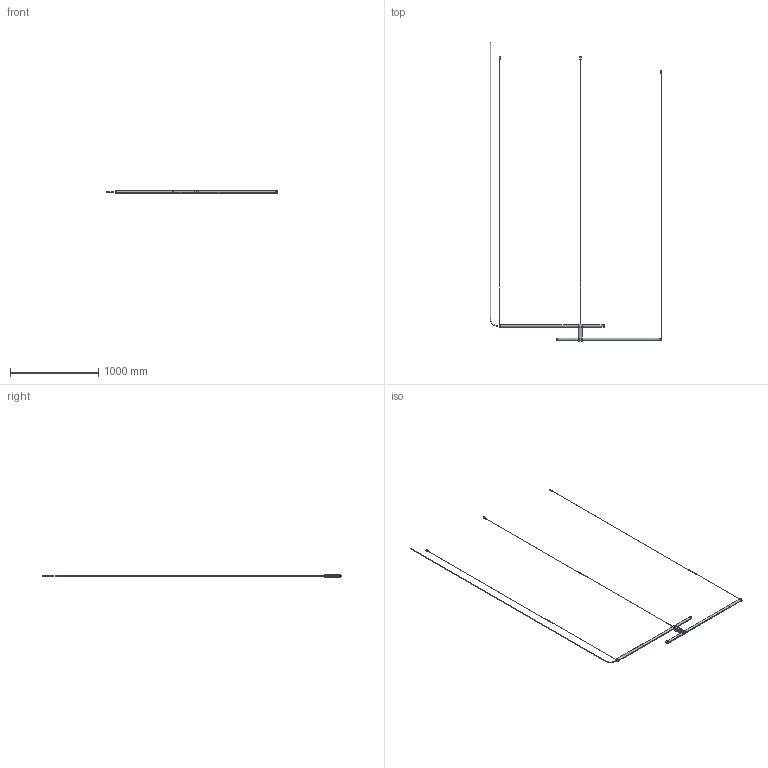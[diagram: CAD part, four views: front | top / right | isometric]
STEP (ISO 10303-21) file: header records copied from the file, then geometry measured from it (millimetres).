
FILE_DESCRIPTION (( 'STEP AP203' ), '1' );
FILE_NAME ('SPPARA02BIXXXXX-PER 3D.STEP', '2026-07-07T17:05:42', ( '' ), ( '' ), 'SwSTEP 2.0', 'SolidWorks 2026', '' );
FILE_SCHEMA (( 'CONFIG_CONTROL_DESIGN' ));
Length unit declared in the file: millimetre
Products named in the file (19): WSCP2E0048-1400-03; WSCM1I0006-0242-00; WSCP2E0017-1400-02; WSCP2E0044-1400-03; WSCM1I0008-0242-00; WSCP2E0004-1400-06; ACTUCC30EXBI1XX REV.03; WSVBPAR116225XX-00; WSCM1I0007-0242-00; SPPARA02BIXXXXX-PER 3D; WSCP2E0013-1400-04; ASSIEME CAVO ACCIAIO 3m+GRIPPER; ACDISTSMXORXXXX REV.01; GUAINA SILIC Ø4mm L= 15mm; WSCA01193000B2830B; ACTUXC30XXBI1XX REV.03; WSCA01193000B2830B L=3000mm; ACCAVOEL2X001XX; WSCP2E0046-1400-03
Assembly tree (23 placements, depth 3):
  SPPARA02BIXXXXX-PER 3D
    ACTUCC30EXBI1XX REV.03
      WSVBPAR116225XX-00
      WSCP2E0004-1400-06
      WSCA01193000B2830B
      GUAINA SILIC Ø4mm L= 15mm
      WSCP2E0048-1400-03
      WSCP2E0046-1400-03
    ASSIEME CAVO ACCIAIO 3m+GRIPPER  x3
      WSCM1I0006-0242-00
      WSCM1I0007-0242-00
      WSCM1I0008-0242-00
      WSCA01193000B2830B L=3000mm
    ACDISTSMXORXXXX REV.01
      WSCP2E0013-1400-04
      WSCP2E0017-1400-02
    ACCAVOEL2X001XX
    ACTUXC30XXBI1XX REV.03
      WSVBPAR116225XX-00
      WSCP2E0004-1400-06
      WSCP2E0044-1400-03
      WSCP2E0048-1400-03
Bounding box: 1942.84 x 3369.74 x 35.5 mm (x, y, z)
Volume: 843478 mm3; surface area: 601586 mm2
Topology: 25 solids, 25 shells, 4830 faces, 11264 edges, 6345 vertices
Faces by surface type: cylinder 2038, torus 1224, plane 971, bspline 383, sphere 133, cone 81
Entity records: 119127 total; most frequent: CARTESIAN_POINT 34505, DIRECTION 18947, ORIENTED_EDGE 16682, EDGE_CURVE 8341, AXIS2_PLACEMENT_3D 7954, VERTEX_POINT 4751, CIRCLE 4532, EDGE_LOOP 3822
